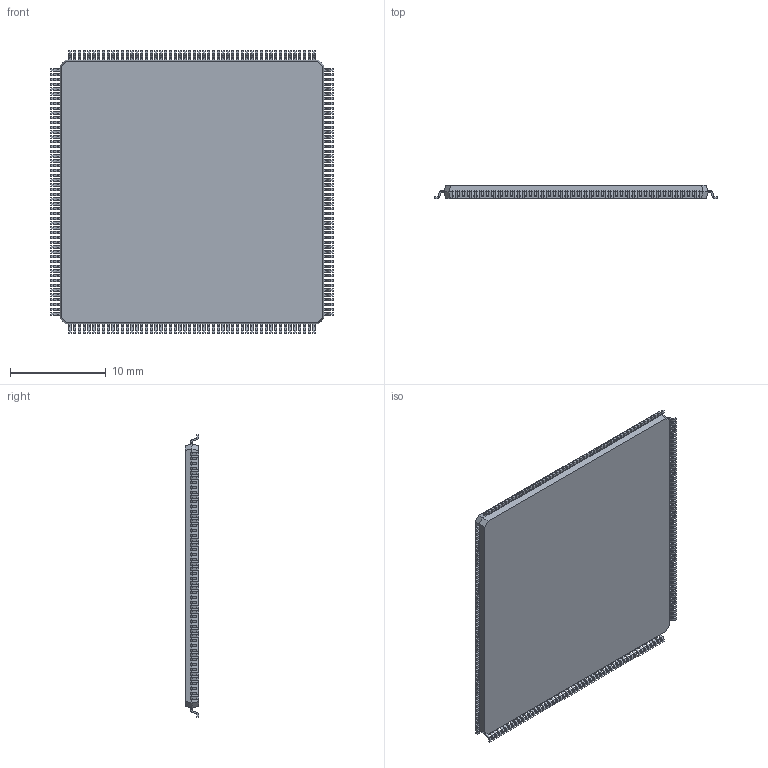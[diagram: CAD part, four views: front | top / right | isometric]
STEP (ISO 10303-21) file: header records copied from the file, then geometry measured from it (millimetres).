
FILE_DESCRIPTION (( 'STEP AP214' ), '1' );
FILE_NAME ('User Library-LQFP-208.STEP', '2020-08-29T17:33:54', ( '' ), ( '' ), 'SwSTEP 2.0', 'SolidWorks 2020', '' );
FILE_SCHEMA (( 'AUTOMOTIVE_DESIGN' ));
Length unit declared in the file: millimetre
Products named in the file (1): User Library-LQFP-208
Bounding box: 29.5 x 1.4 x 29.5 mm (x, y, z)
Volume: 1060.4 mm3; surface area: 1898.8 mm2
Topology: 1 solids, 1 shells, 2734 faces, 7768 edges, 5040 vertices
Faces by surface type: plane 1894, cylinder 832, cone 8
Entity records: 118044 total; most frequent: CARTESIAN_POINT 15543, ORIENTED_EDGE 15536, DIRECTION 14918, EDGE_CURVE 7768, VECTOR 6088, LINE 6088, VERTEX_POINT 5040, AXIS2_PLACEMENT_3D 4415
